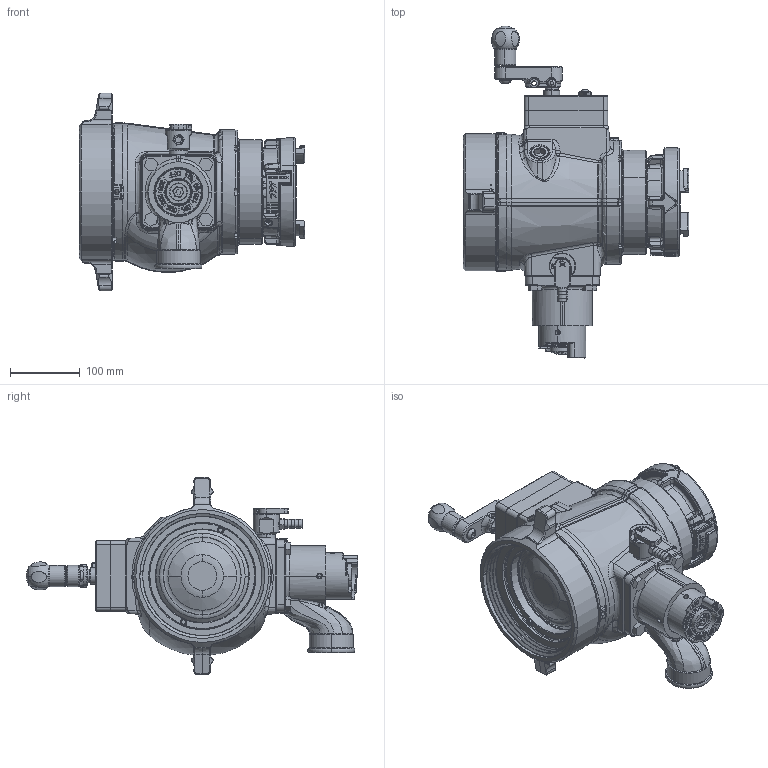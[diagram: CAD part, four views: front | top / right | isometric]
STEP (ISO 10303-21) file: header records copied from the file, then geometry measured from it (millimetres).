
FILE_DESCRIPTION (( 'STEP AP203' ), '1' );
FILE_NAME ('AP1SP-NX-PS.step', '2014-05-13T19:12:00', ( 'user' ), ( '' ), 'SwSTEP 2.0', 'SolidWorks 2012', '' );
FILE_SCHEMA (( 'CONFIG_CONTROL_DESIGN' ));
Length unit declared in the file: inch
Products named in the file (1): AP1SP-NX-PS
Bounding box: 323.59 x 476 x 283.46 mm (x, y, z)
Surface area: 535395.2 mm2 (no closed solid volume)
Topology: 0 solids, 63 shells, 1935 faces, 6703 edges, 4638 vertices
Faces by surface type: plane 556, bspline 490, cylinder 441, cone 274, torus 148, sphere 26
Entity records: 130061 total; most frequent: CARTESIAN_POINT 79329, ORIENTED_EDGE 10791, DIRECTION 8817, EDGE_CURVE 6670, VERTEX_POINT 4635, AXIS2_PLACEMENT_3D 3160, LINE 2497, VECTOR 2497
